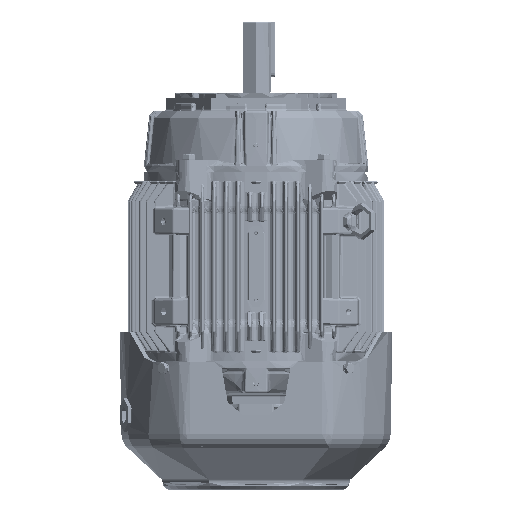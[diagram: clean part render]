
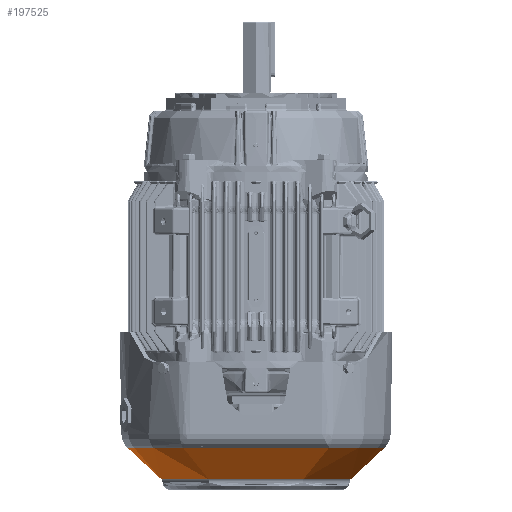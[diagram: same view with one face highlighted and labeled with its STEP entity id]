
A CAD part, front view. The second image highlights one B-rep face of the part: STEP entity #197525.
In plain terms, the highlighted conical face has half-angle 47 degrees and reference radius 126.469 mm.
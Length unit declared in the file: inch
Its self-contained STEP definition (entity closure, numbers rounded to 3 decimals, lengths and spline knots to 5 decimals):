
#5649 = ORIENTED_EDGE ( 'NONE', *, *, #425129, .T. ) ;
#8719 = CARTESIAN_POINT ( 'NONE',  ( 4.97908, 0., -9.98196 ) ) ;
#17672 = EDGE_CURVE ( 'NONE', #87577, #179936, #429406, .T. ) ;
#20092 = CONICAL_SURFACE ( 'NONE', #376494, 4.97908, 0.82 ) ;
#30911 = DIRECTION ( 'NONE',  ( 0., 0., 1. ) ) ;
#31008 = EDGE_CURVE ( 'NONE', #82739, #444981, #340781, .T. ) ;
#38691 = CARTESIAN_POINT ( 'NONE',  ( 1.41913, -5.65964, -9.18446 ) ) ;
#41050 = CARTESIAN_POINT ( 'NONE',  ( -3.85306, -5.57609, -8.30462 ) ) ;
#43432 = CARTESIAN_POINT ( 'NONE',  ( -3.70209, -5.58195, -8.37931 ) ) ;
#45778 = ORIENTED_EDGE ( 'NONE', *, *, #62947, .F. ) ;
#45807 = CARTESIAN_POINT ( 'NONE',  ( -2.62305, -5.62307, -8.84492 ) ) ;
#51628 = DIRECTION ( 'NONE',  ( 0., 0., 1. ) ) ;
#62947 = EDGE_CURVE ( 'NONE', #170005, #444981, #213153, .T. ) ;
#75055 = CARTESIAN_POINT ( 'NONE',  ( 1.82836, -5.64894, -9.09011 ) ) ;
#77212 = EDGE_LOOP ( 'NONE', ( #462142, #158533, #184104, #45778, #5649, #346559 ) ) ;
#79817 = CARTESIAN_POINT ( 'NONE',  ( -0.91949, -5.66963, -9.26908 ) ) ;
#82739 = VERTEX_POINT ( 'NONE', #196947 ) ;
#84630 = CARTESIAN_POINT ( 'NONE',  ( -1.33754, -5.66235, -9.20824 ) ) ;
#87577 = VERTEX_POINT ( 'NONE', #449442 ) ;
#90393 = CARTESIAN_POINT ( 'NONE',  ( 0., 0., -8.30462 ) ) ;
#113822 = CARTESIAN_POINT ( 'NONE',  ( 1.08672, -5.66674, -9.24497 ) ) ;
#129811 = CARTESIAN_POINT ( 'NONE',  ( 6.77782, 0., -8.30462 ) ) ;
#135840 = CARTESIAN_POINT ( 'NONE',  ( 3.85306, -5.57609, -8.30462 ) ) ;
#152551 = CARTESIAN_POINT ( 'NONE',  ( 2.62653, -5.62294, -8.84362 ) ) ;
#154947 = CARTESIAN_POINT ( 'NONE',  ( 0.33606, -5.67718, -9.33089 ) ) ;
#157349 = CARTESIAN_POINT ( 'NONE',  ( 1.33645, -5.66156, -9.20098 ) ) ;
#158533 = ORIENTED_EDGE ( 'NONE', *, *, #318568, .T. ) ;
#168396 = LINE ( 'NONE', #396112, #465026 ) ;
#170005 = VERTEX_POINT ( 'NONE', #463482 ) ;
#174410 = AXIS2_PLACEMENT_3D ( 'NONE', #477252, #404574, #179246 ) ;
#178461 = CARTESIAN_POINT ( 'NONE',  ( 0., 0., -9.98196 ) ) ;
#179246 = DIRECTION ( 'NONE',  ( 1., 0., 0. ) ) ;
#179936 = VERTEX_POINT ( 'NONE', #181550 ) ;
#181137 = DIRECTION ( 'NONE',  ( 1., 0., 0. ) ) ;
#181550 = CARTESIAN_POINT ( 'NONE',  ( -3.85306, -5.57609, -8.30462 ) ) ;
#184104 = ORIENTED_EDGE ( 'NONE', *, *, #31008, .T. ) ;
#184144 = CARTESIAN_POINT ( 'NONE',  ( 0.66998, -5.67404, -9.306 ) ) ;
#196947 = CARTESIAN_POINT ( 'NONE',  ( 4.97908, 0., -9.98196 ) ) ;
#197525 = ADVANCED_FACE ( 'NONE', ( #370173 ), #20092, .T. ) ;
#202375 = DIRECTION ( 'NONE',  ( -0.731, 0., 0.682 ) ) ;
#205245 = DIRECTION ( 'NONE',  ( 1., 0., 0. ) ) ;
#205394 = AXIS2_PLACEMENT_3D ( 'NONE', #178461, #319146, #205245 ) ;
#213153 = CIRCLE ( 'NONE', #174410, 6.77782 ) ;
#222903 = CARTESIAN_POINT ( 'NONE',  ( -3.24378, -5.59972, -8.59165 ) ) ;
#227663 = CARTESIAN_POINT ( 'NONE',  ( -2.3075, -5.63429, -8.95462 ) ) ;
#232447 = CARTESIAN_POINT ( 'NONE',  ( -0.668, -5.67321, -9.29869 ) ) ;
#247343 = CARTESIAN_POINT ( 'NONE',  ( 3.24691, -5.59975, -8.59453 ) ) ;
#259297 = CARTESIAN_POINT ( 'NONE',  ( -0.33298, -5.67643, -9.32487 ) ) ;
#259764 = CIRCLE ( 'NONE', #205394, 4.97908 ) ;
#266435 = CARTESIAN_POINT ( 'NONE',  ( -3.08947, -5.60563, -8.6578 ) ) ;
#269880 = EDGE_CURVE ( 'NONE', #427461, #87577, #168396, .T. ) ;
#272813 = DIRECTION ( 'NONE',  ( 0.731, 0., 0.682 ) ) ;
#283690 = CARTESIAN_POINT ( 'NONE',  ( 3.55196, -5.58778, -8.45526 ) ) ;
#297936 = AXIS2_PLACEMENT_3D ( 'NONE', #90393, #51628, #342573 ) ;
#300373 = CARTESIAN_POINT ( 'NONE',  ( -0.16562, -5.67719, -9.33101 ) ) ;
#302788 = CARTESIAN_POINT ( 'NONE',  ( -1.66474, -5.65394, -9.13629 ) ) ;
#305178 = CARTESIAN_POINT ( 'NONE',  ( 1.17014, -5.66511, -9.23125 ) ) ;
#318568 = EDGE_CURVE ( 'NONE', #427461, #82739, #259764, .T. ) ;
#319146 = DIRECTION ( 'NONE',  ( 0., 0., 1. ) ) ;
#329012 = CARTESIAN_POINT ( 'NONE',  ( 0., 0., -9.98196 ) ) ;
#330260 = B_SPLINE_CURVE_WITH_KNOTS ( 'NONE', 3,
 ( #135840, #283690, #247343, #152551, #411882, #75055, #334403, #38691, #157349, #305178, #113822, #184144, #154947, #300373, #259297, #377930, #232447, #339161, #416678, #79817, #341574, #84630, #302788, #227663, #45807, #266435, #222903, #448233, #375533, #43432, #370779, #41050 ),
 .UNSPECIFIED., .F., .F.,
 ( 4, 2, 2, 2, 2, 2, 2, 2, 2, 2, 2, 2, 2, 2, 2, 4 ),
 ( 0., 0.02546, 0.05092, 0.06365, 0.07001, 0.07637, 0.10183, 0.11456, 0.12093, 0.12411, 0.12729, 0.15275, 0.17821, 0.19094, 0.1973, 0.20367 ),
 .UNSPECIFIED. ) ;
#334403 = CARTESIAN_POINT ( 'NONE',  ( 1.66577, -5.65352, -9.13099 ) ) ;
#339161 = CARTESIAN_POINT ( 'NONE',  ( -0.79372, -5.67153, -9.28484 ) ) ;
#340781 = LINE ( 'NONE', #8719, #360569 ) ;
#341574 = CARTESIAN_POINT ( 'NONE',  ( -0.96143, -5.66893, -9.26332 ) ) ;
#342573 = DIRECTION ( 'NONE',  ( 1., 0., 0. ) ) ;
#346559 = ORIENTED_EDGE ( 'NONE', *, *, #17672, .F. ) ;
#360569 = VECTOR ( 'NONE', #272813, 39.37008 ) ;
#370173 = FACE_OUTER_BOUND ( 'NONE', #77212, .T. ) ;
#370779 = CARTESIAN_POINT ( 'NONE',  ( -3.77774, -5.57901, -8.3423 ) ) ;
#375533 = CARTESIAN_POINT ( 'NONE',  ( -3.5501, -5.58786, -8.45187 ) ) ;
#376494 = AXIS2_PLACEMENT_3D ( 'NONE', #329012, #30911, #181137 ) ;
#377930 = CARTESIAN_POINT ( 'NONE',  ( -0.58422, -5.67416, -9.30639 ) ) ;
#396112 = CARTESIAN_POINT ( 'NONE',  ( -4.97908, 0., -9.98196 ) ) ;
#396918 = CARTESIAN_POINT ( 'NONE',  ( -4.97908, 0., -9.98196 ) ) ;
#404574 = DIRECTION ( 'NONE',  ( 0., 0., 1. ) ) ;
#411882 = CARTESIAN_POINT ( 'NONE',  ( 2.3112, -5.63416, -8.95344 ) ) ;
#416678 = CARTESIAN_POINT ( 'NONE',  ( -0.83564, -5.67093, -9.27984 ) ) ;
#425129 = EDGE_CURVE ( 'NONE', #170005, #179936, #330260, .T. ) ;
#427461 = VERTEX_POINT ( 'NONE', #396918 ) ;
#429406 = CIRCLE ( 'NONE', #297936, 6.77782 ) ;
#444981 = VERTEX_POINT ( 'NONE', #129811 ) ;
#448233 = CARTESIAN_POINT ( 'NONE',  ( -3.47372, -5.59083, -8.48744 ) ) ;
#449442 = CARTESIAN_POINT ( 'NONE',  ( -6.77782, 0., -8.30462 ) ) ;
#462142 = ORIENTED_EDGE ( 'NONE', *, *, #269880, .F. ) ;
#463482 = CARTESIAN_POINT ( 'NONE',  ( 3.85306, -5.57609, -8.30462 ) ) ;
#465026 = VECTOR ( 'NONE', #202375, 39.37008 ) ;
#477252 = CARTESIAN_POINT ( 'NONE',  ( 0., 0., -8.30462 ) ) ;
